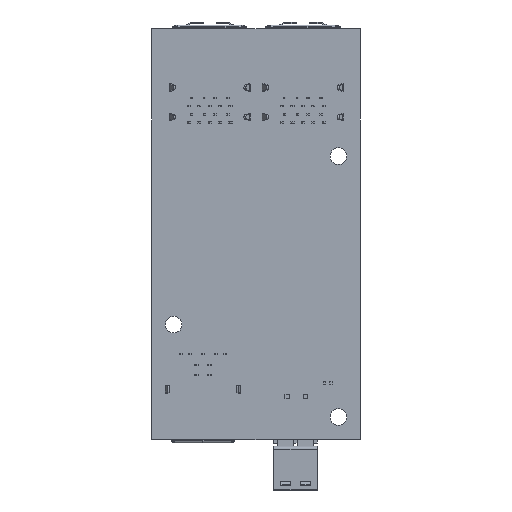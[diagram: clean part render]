
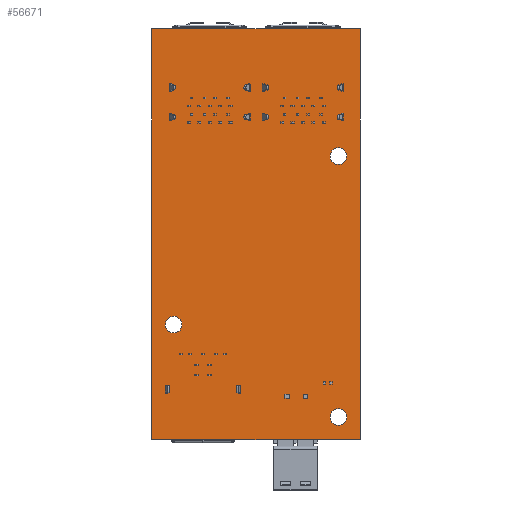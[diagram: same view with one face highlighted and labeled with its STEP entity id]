
A CAD part, front view. The second image highlights one B-rep face of the part: STEP entity #56671.
In plain terms, the highlighted planar face has unit normal (0, -1, 0).
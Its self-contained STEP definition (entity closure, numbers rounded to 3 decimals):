
#688=FACE_BOUND('',#9531,.T.);
#689=FACE_BOUND('',#9532,.T.);
#690=FACE_BOUND('',#9533,.T.);
#3109=CIRCLE('',#61167,1.6);
#3110=CIRCLE('',#61169,1.6);
#3111=CIRCLE('',#61171,1.6);
#6526=FACE_OUTER_BOUND('',#9530,.T.);
#9530=EDGE_LOOP('',(#51720,#51721,#51722,#51723));
#9531=EDGE_LOOP('',(#51724));
#9532=EDGE_LOOP('',(#51725));
#9533=EDGE_LOOP('',(#51726));
#16112=LINE('',#93284,#22702);
#16116=LINE('',#93292,#22706);
#16119=LINE('',#93298,#22709);
#16122=LINE('',#93303,#22712);
#22702=VECTOR('',#76065,10.);
#22706=VECTOR('',#76071,10.);
#22709=VECTOR('',#76076,10.);
#22712=VECTOR('',#76081,10.);
#27905=VERTEX_POINT('',#93270);
#27906=VERTEX_POINT('',#93274);
#27907=VERTEX_POINT('',#93278);
#27908=VERTEX_POINT('',#93282);
#27909=VERTEX_POINT('',#93283);
#27912=VERTEX_POINT('',#93291);
#27914=VERTEX_POINT('',#93297);
#35836=EDGE_CURVE('',#27905,#27905,#3109,.T.);
#35838=EDGE_CURVE('',#27906,#27906,#3110,.T.);
#35840=EDGE_CURVE('',#27907,#27907,#3111,.T.);
#35841=EDGE_CURVE('',#27908,#27909,#16112,.T.);
#35845=EDGE_CURVE('',#27912,#27908,#16116,.T.);
#35848=EDGE_CURVE('',#27914,#27912,#16119,.T.);
#35851=EDGE_CURVE('',#27909,#27914,#16122,.T.);
#51720=ORIENTED_EDGE('',*,*,#35851,.F.);
#51721=ORIENTED_EDGE('',*,*,#35841,.F.);
#51722=ORIENTED_EDGE('',*,*,#35845,.F.);
#51723=ORIENTED_EDGE('',*,*,#35848,.F.);
#51724=ORIENTED_EDGE('',*,*,#35840,.F.);
#51725=ORIENTED_EDGE('',*,*,#35838,.F.);
#51726=ORIENTED_EDGE('',*,*,#35836,.F.);
#53868=PLANE('',#61177);
#56671=ADVANCED_FACE('',(#6526,#688,#689,#690),#53868,.F.);
#61167=AXIS2_PLACEMENT_3D('',#93272,#76051,#76052);
#61169=AXIS2_PLACEMENT_3D('',#93276,#76056,#76057);
#61171=AXIS2_PLACEMENT_3D('',#93280,#76061,#76062);
#61177=AXIS2_PLACEMENT_3D('',#93306,#76085,#76086);
#76051=DIRECTION('center_axis',(0.,-1.,0.));
#76052=DIRECTION('ref_axis',(1.,0.,0.));
#76056=DIRECTION('center_axis',(0.,-1.,0.));
#76057=DIRECTION('ref_axis',(1.,0.,0.));
#76061=DIRECTION('center_axis',(0.,-1.,0.));
#76062=DIRECTION('ref_axis',(1.,0.,0.));
#76065=DIRECTION('',(-1.,0.,0.));
#76071=DIRECTION('',(0.,0.,-1.));
#76076=DIRECTION('',(1.,0.,0.));
#76081=DIRECTION('',(0.,0.,1.));
#76085=DIRECTION('center_axis',(0.,1.,0.));
#76086=DIRECTION('ref_axis',(1.,0.,0.));
#93270=CARTESIAN_POINT('',(14.215,0.,-74.51));
#93272=CARTESIAN_POINT('Origin',(15.815,0.,-74.51));
#93274=CARTESIAN_POINT('',(14.215,0.,-24.46));
#93276=CARTESIAN_POINT('Origin',(15.815,0.,-24.46));
#93278=CARTESIAN_POINT('',(-17.415,0.,-56.8));
#93280=CARTESIAN_POINT('Origin',(-15.815,0.,-56.8));
#93282=CARTESIAN_POINT('',(20.045,0.,-78.9));
#93283=CARTESIAN_POINT('',(-20.045,0.,-78.9));
#93284=CARTESIAN_POINT('',(20.045,0.,-78.9));
#93291=CARTESIAN_POINT('',(20.045,0.,0.));
#93292=CARTESIAN_POINT('',(20.045,0.,0.));
#93297=CARTESIAN_POINT('',(-20.045,0.,0.));
#93298=CARTESIAN_POINT('',(-20.045,0.,0.));
#93303=CARTESIAN_POINT('',(-20.045,0.,-78.9));
#93306=CARTESIAN_POINT('Origin',(0.,0.,-39.45));
